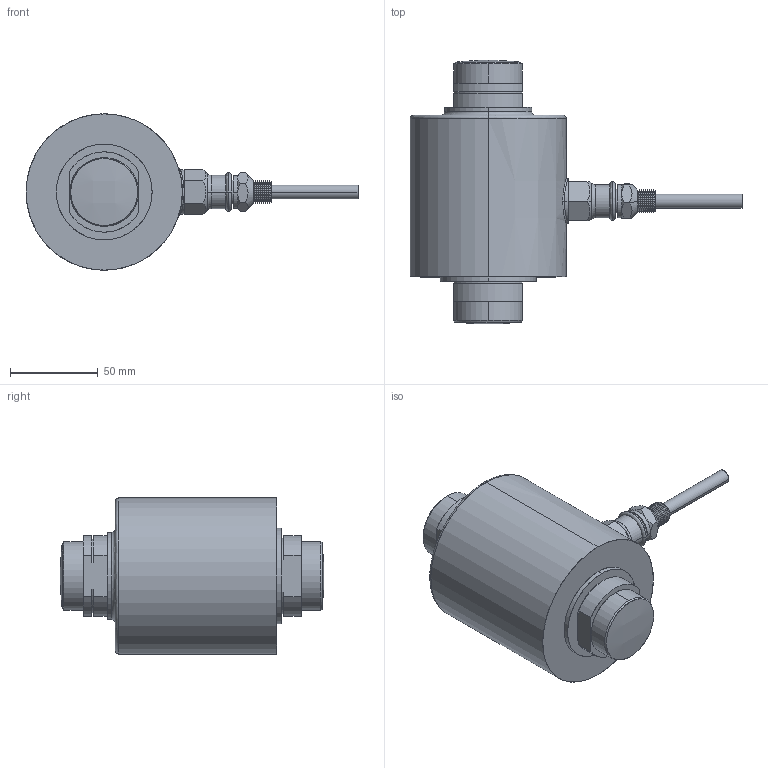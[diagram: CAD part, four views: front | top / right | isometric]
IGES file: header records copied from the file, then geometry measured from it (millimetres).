
Start section: SolidWorks IGES file using analytic representation for surfaces
Global section: file name: C:\0_Work\SolidWorks\0_Load Points\LPRC03 Series\66K - 88K\Load_Sensor_HIRCH03_88KLB.IGS; native system: SolidWorks 2020; preprocessor: SolidWorks 2020; author: vach01; date: 220601.125714; units: millimetre
Bounding box: 188.77 x 149.76 x 88.9 mm (x, y, z)
Surface area: 55035.8 mm2 (no closed solid volume)
Topology: 0 solids, 0 shells, 177 faces, 2464 edges, 2462 vertices
Faces by surface type: revolution 121, bspline 56
